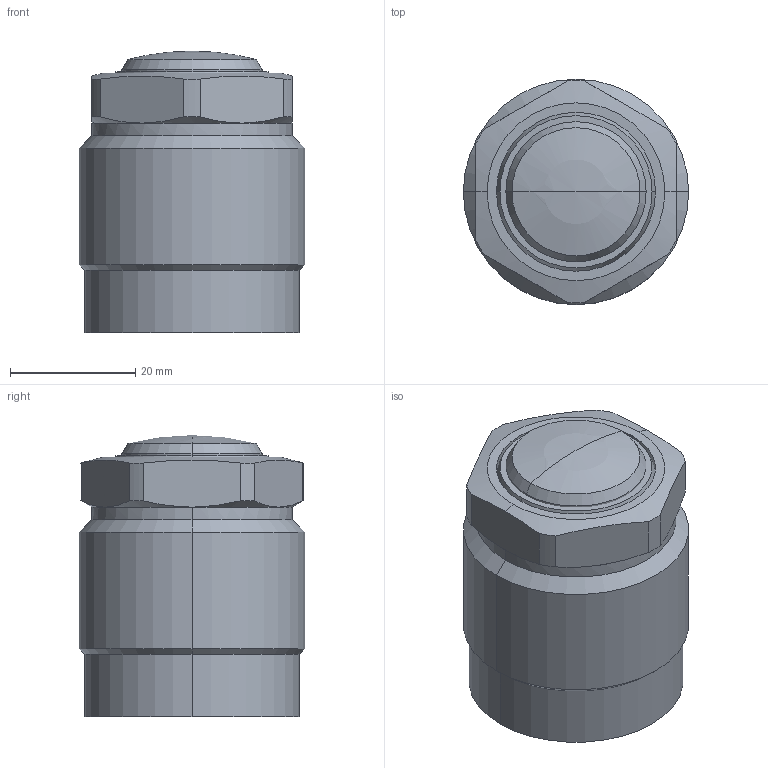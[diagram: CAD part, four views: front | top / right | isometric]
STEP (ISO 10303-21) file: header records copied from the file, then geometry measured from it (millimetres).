
FILE_DESCRIPTION((' '),'2;1');
FILE_NAME( 'TGP36-RS.x_t.stp', '2025-02-10T16:03:55', (' '), ('--- Datakit www.datakit.com---'), ' Datakit CrossCadWare V2024.1 Dec 21 2023', 'Mastercam 2025', ' ');
FILE_SCHEMA(('AUTOMOTIVE_DESIGN { 1 0 10303 214 1 1 1 1 }'));
Length unit declared in the file: millimetre
Products named in the file (1): TGP36-RS
Bounding box: 36 x 36 x 45 mm (x, y, z)
Volume: 43561.5 mm3; surface area: 8739.5 mm2
Topology: 2 solids, 2 shells, 61 faces, 155 edges, 101 vertices
Faces by surface type: cylinder 26, plane 15, cone 14, torus 4, sphere 2
Entity records: 1972 total; most frequent: CARTESIAN_POINT 452, DIRECTION 336, ORIENTED_EDGE 302, EDGE_CURVE 151, AXIS2_PLACEMENT_3D 145, VERTEX_POINT 101, CIRCLE 83, EDGE_LOOP 68
